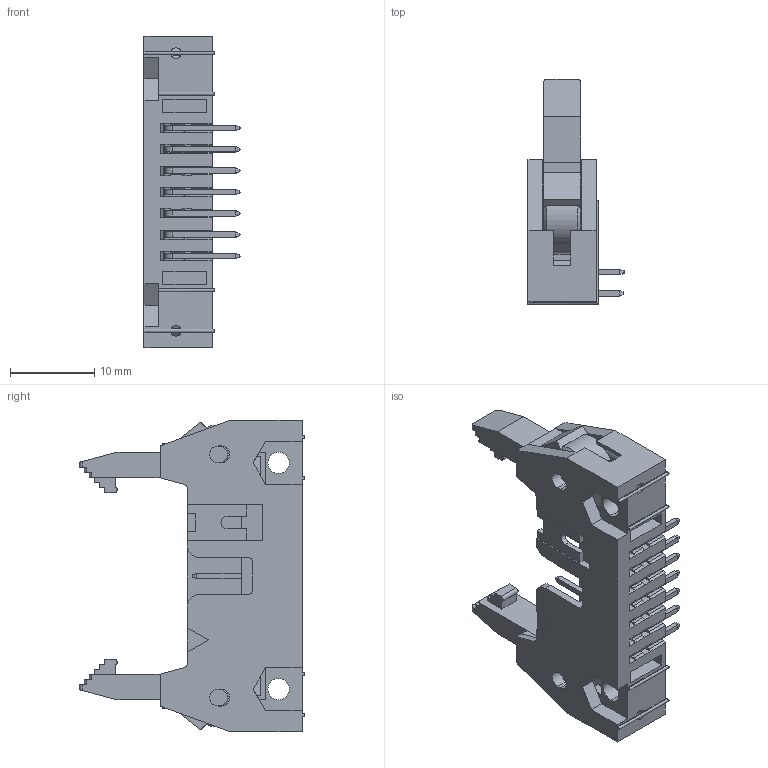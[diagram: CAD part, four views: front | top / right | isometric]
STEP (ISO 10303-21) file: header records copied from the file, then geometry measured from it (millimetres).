
FILE_DESCRIPTION((''),'2;1');
FILE_NAME('71922_Y14_ASM','2006-12-07T',('DaLegrand'),('FCI - CDC Division'),'PRO/ENGINEER BY PARAMETRIC TECHNOLOGY CORPORATION, 2004490','PRO/ENGINEER BY PARAMETRIC TECHNOLOGY CORPORATION, 2004490','');
FILE_SCHEMA(('CONFIG_CONTROL_DESIGN'));
Length unit declared in the file: millimetre
Products named in the file (5): 67017_Y14; 77391_Y21; 77391_Y25; 67018_001; 71922_Y14_ASM
Assembly tree (17 placements, depth 2):
  71922_Y14_ASM
    67017_Y14
    77391_Y21  x7
    77391_Y25  x7
    67018_001  x2
Bounding box: 11.42 x 26.8 x 37.08 mm (x, y, z)
Volume: 3034 mm3; surface area: 4689 mm2
Topology: 17 solids, 17 shells, 943 faces, 2475 edges, 1558 vertices
Faces by surface type: plane 770, cylinder 149, torus 10, sphere 8, cone 4, bspline 2
Entity records: 19836 total; most frequent: CARTESIAN_POINT 3746, ORIENTED_EDGE 3420, DIRECTION 3130, EDGE_CURVE 1710, VECTOR 1492, LINE 1492, VERTEX_POINT 1102, AXIS2_PLACEMENT_3D 819
